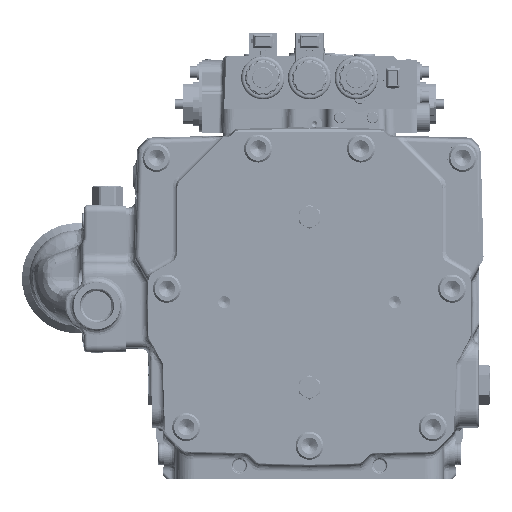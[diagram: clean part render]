
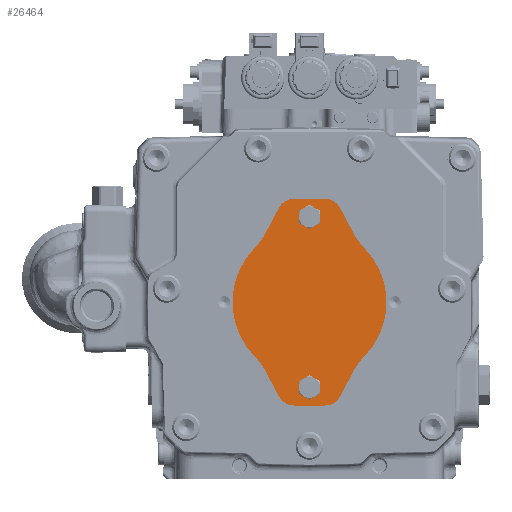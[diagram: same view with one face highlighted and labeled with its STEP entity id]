
A CAD part, front view. The second image highlights one B-rep face of the part: STEP entity #26464.
In plain terms, the highlighted planar face has unit normal (0, -1, 0).
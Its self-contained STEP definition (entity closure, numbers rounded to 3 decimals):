
#14048=LINE('',#169550,#18193);
#14052=LINE('',#169562,#18197);
#14056=LINE('',#169574,#18201);
#14062=LINE('',#169598,#18207);
#14066=LINE('',#169610,#18211);
#14069=LINE('',#169619,#18214);
#18193=VECTOR('',#110716,1.);
#18197=VECTOR('',#110728,1.);
#18201=VECTOR('',#110740,1.);
#18207=VECTOR('',#110766,1.);
#18211=VECTOR('',#110778,1.);
#18214=VECTOR('',#110789,1.);
#21356=PLANE('',#89280);
#26464=ADVANCED_FACE('',(#28749,#28750,#28751),#21356,.F.);
#28749=FACE_BOUND('',#34639,.T.);
#28750=FACE_BOUND('',#34640,.T.);
#28751=FACE_BOUND('',#34641,.T.);
#34639=EDGE_LOOP('',(#57050));
#34640=EDGE_LOOP('',(#57051));
#34641=EDGE_LOOP('',(#57052,#57053,#57054,#57055,#57056,#57057,#57058,#57059,
#57060,#57061,#57062,#57063,#57064,#57065,#57066,#57067));
#57050=ORIENTED_EDGE('',*,*,#76259,.T.);
#57051=ORIENTED_EDGE('',*,*,#76260,.T.);
#57052=ORIENTED_EDGE('',*,*,#76213,.T.);
#57053=ORIENTED_EDGE('',*,*,#76217,.F.);
#57054=ORIENTED_EDGE('',*,*,#76220,.F.);
#57055=ORIENTED_EDGE('',*,*,#76223,.T.);
#57056=ORIENTED_EDGE('',*,*,#76226,.T.);
#57057=ORIENTED_EDGE('',*,*,#76229,.T.);
#57058=ORIENTED_EDGE('',*,*,#76232,.F.);
#57059=ORIENTED_EDGE('',*,*,#76235,.F.);
#57060=ORIENTED_EDGE('',*,*,#76238,.T.);
#57061=ORIENTED_EDGE('',*,*,#76241,.F.);
#57062=ORIENTED_EDGE('',*,*,#76244,.F.);
#57063=ORIENTED_EDGE('',*,*,#76247,.T.);
#57064=ORIENTED_EDGE('',*,*,#76250,.T.);
#57065=ORIENTED_EDGE('',*,*,#76253,.T.);
#57066=ORIENTED_EDGE('',*,*,#76256,.F.);
#57067=ORIENTED_EDGE('',*,*,#76258,.F.);
#64850=VERTEX_POINT('',#169529);
#64851=VERTEX_POINT('',#169531);
#64853=VERTEX_POINT('',#169537);
#64855=VERTEX_POINT('',#169543);
#64857=VERTEX_POINT('',#169549);
#64859=VERTEX_POINT('',#169555);
#64861=VERTEX_POINT('',#169561);
#64863=VERTEX_POINT('',#169567);
#64865=VERTEX_POINT('',#169573);
#64867=VERTEX_POINT('',#169579);
#64869=VERTEX_POINT('',#169585);
#64871=VERTEX_POINT('',#169591);
#64873=VERTEX_POINT('',#169597);
#64875=VERTEX_POINT('',#169603);
#64877=VERTEX_POINT('',#169609);
#64879=VERTEX_POINT('',#169615);
#64880=VERTEX_POINT('',#169622);
#64881=VERTEX_POINT('',#169624);
#76213=EDGE_CURVE('',#64851,#64850,#80567,.T.);
#76217=EDGE_CURVE('',#64853,#64850,#80569,.T.);
#76220=EDGE_CURVE('',#64855,#64853,#80571,.T.);
#76223=EDGE_CURVE('',#64855,#64857,#14048,.T.);
#76226=EDGE_CURVE('',#64857,#64859,#80573,.T.);
#76229=EDGE_CURVE('',#64859,#64861,#14052,.T.);
#76232=EDGE_CURVE('',#64863,#64861,#80575,.T.);
#76235=EDGE_CURVE('',#64865,#64863,#14056,.T.);
#76238=EDGE_CURVE('',#64865,#64867,#80577,.T.);
#76241=EDGE_CURVE('',#64869,#64867,#80579,.T.);
#76244=EDGE_CURVE('',#64871,#64869,#80581,.T.);
#76247=EDGE_CURVE('',#64871,#64873,#14062,.T.);
#76250=EDGE_CURVE('',#64873,#64875,#80583,.T.);
#76253=EDGE_CURVE('',#64875,#64877,#14066,.T.);
#76256=EDGE_CURVE('',#64879,#64877,#80585,.T.);
#76258=EDGE_CURVE('',#64851,#64879,#14069,.T.);
#76259=EDGE_CURVE('',#64880,#64880,#80586,.T.);
#76260=EDGE_CURVE('',#64881,#64881,#80587,.T.);
#80567=CIRCLE('',#89243,50.);
#80569=CIRCLE('',#89246,66.);
#80571=CIRCLE('',#89249,50.);
#80573=CIRCLE('',#89253,15.);
#80575=CIRCLE('',#89257,15.);
#80577=CIRCLE('',#89261,50.);
#80579=CIRCLE('',#89264,66.);
#80581=CIRCLE('',#89267,50.);
#80583=CIRCLE('',#89271,15.);
#80585=CIRCLE('',#89275,15.);
#80586=CIRCLE('',#89278,8.015);
#80587=CIRCLE('',#89279,8.015);
#89243=AXIS2_PLACEMENT_3D('',#169530,#110695,#110696);
#89246=AXIS2_PLACEMENT_3D('',#169538,#110703,#110704);
#89249=AXIS2_PLACEMENT_3D('',#169544,#110710,#110711);
#89253=AXIS2_PLACEMENT_3D('',#169556,#110722,#110723);
#89257=AXIS2_PLACEMENT_3D('',#169568,#110734,#110735);
#89261=AXIS2_PLACEMENT_3D('',#169580,#110746,#110747);
#89264=AXIS2_PLACEMENT_3D('',#169586,#110753,#110754);
#89267=AXIS2_PLACEMENT_3D('',#169592,#110760,#110761);
#89271=AXIS2_PLACEMENT_3D('',#169604,#110772,#110773);
#89275=AXIS2_PLACEMENT_3D('',#169616,#110784,#110785);
#89278=AXIS2_PLACEMENT_3D('',#169621,#110792,#110793);
#89279=AXIS2_PLACEMENT_3D('',#169623,#110794,#110795);
#89280=AXIS2_PLACEMENT_3D('',#169625,#110796,#110797);
#110695=DIRECTION('',(0.,1.,0.));
#110696=DIRECTION('',(0.,0.,1.));
#110703=DIRECTION('',(0.,1.,0.));
#110704=DIRECTION('',(0.,0.,1.));
#110710=DIRECTION('',(0.,-1.,0.));
#110711=DIRECTION('',(0.,0.,-1.));
#110716=DIRECTION('',(-0.469,0.,0.883));
#110722=DIRECTION('',(0.,-1.,0.));
#110723=DIRECTION('',(0.,0.,-1.));
#110728=DIRECTION('',(-1.,0.,0.));
#110734=DIRECTION('',(0.,1.,0.));
#110735=DIRECTION('',(0.,0.,-1.));
#110740=DIRECTION('',(0.469,0.,0.883));
#110746=DIRECTION('',(0.,1.,0.));
#110747=DIRECTION('',(0.,0.,-1.));
#110753=DIRECTION('',(0.,1.,0.));
#110754=DIRECTION('',(0.,0.,-1.));
#110760=DIRECTION('',(0.,-1.,0.));
#110761=DIRECTION('',(0.,0.,1.));
#110766=DIRECTION('',(0.469,0.,-0.883));
#110772=DIRECTION('',(0.,-1.,0.));
#110773=DIRECTION('',(0.,0.,1.));
#110778=DIRECTION('',(1.,0.,0.));
#110784=DIRECTION('',(0.,1.,0.));
#110785=DIRECTION('',(0.,0.,1.));
#110789=DIRECTION('',(-0.469,0.,-0.883));
#110792=DIRECTION('',(0.,1.,0.));
#110793=DIRECTION('',(-0.5,0.,0.866));
#110794=DIRECTION('',(0.,1.,0.));
#110795=DIRECTION('',(-0.5,0.,0.866));
#110796=DIRECTION('',(0.,1.,0.));
#110797=DIRECTION('',(0.,0.,-1.));
#169529=CARTESIAN_POINT('',(46.742,-106.,16.404));
#169530=CARTESIAN_POINT('',(82.153,-106.,-18.895));
#169531=CARTESIAN_POINT('',(38.006,-106.,4.578));
#169537=CARTESIAN_POINT('',(46.742,-106.,109.596));
#169538=CARTESIAN_POINT('',(0.,-106.,63.));
#169543=CARTESIAN_POINT('',(38.006,-106.,121.422));
#169544=CARTESIAN_POINT('',(82.153,-106.,144.895));
#169549=CARTESIAN_POINT('',(26.244,-106.,143.542));
#169550=CARTESIAN_POINT('',(38.006,-106.,121.422));
#169555=CARTESIAN_POINT('',(13.,-106.,151.5));
#169556=CARTESIAN_POINT('',(13.,-106.,136.5));
#169561=CARTESIAN_POINT('',(-13.,-106.,151.5));
#169562=CARTESIAN_POINT('',(13.,-106.,151.5));
#169567=CARTESIAN_POINT('',(-26.244,-106.,143.542));
#169568=CARTESIAN_POINT('',(-13.,-106.,136.5));
#169573=CARTESIAN_POINT('',(-38.006,-106.,121.422));
#169574=CARTESIAN_POINT('',(-38.006,-106.,121.422));
#169579=CARTESIAN_POINT('',(-46.742,-106.,109.596));
#169580=CARTESIAN_POINT('',(-82.153,-106.,144.895));
#169585=CARTESIAN_POINT('',(-46.742,-106.,16.404));
#169586=CARTESIAN_POINT('',(0.,-106.,63.));
#169591=CARTESIAN_POINT('',(-38.006,-106.,4.578));
#169592=CARTESIAN_POINT('',(-82.153,-106.,-18.895));
#169597=CARTESIAN_POINT('',(-26.244,-106.,-17.542));
#169598=CARTESIAN_POINT('',(-38.006,-106.,4.578));
#169603=CARTESIAN_POINT('',(-13.,-106.,-25.5));
#169604=CARTESIAN_POINT('',(-13.,-106.,-10.5));
#169609=CARTESIAN_POINT('',(13.,-106.,-25.5));
#169610=CARTESIAN_POINT('',(-13.,-106.,-25.5));
#169615=CARTESIAN_POINT('',(26.244,-106.,-17.542));
#169616=CARTESIAN_POINT('',(13.,-106.,-10.5));
#169619=CARTESIAN_POINT('',(38.006,-106.,4.578));
#169621=CARTESIAN_POINT('',(0.,-106.,-10.));
#169622=CARTESIAN_POINT('',(-4.007,-106.,-3.059));
#169623=CARTESIAN_POINT('',(0.,-106.,136.));
#169624=CARTESIAN_POINT('',(-4.008,-106.,142.941));
#169625=CARTESIAN_POINT('',(82.153,-106.,-18.895));
